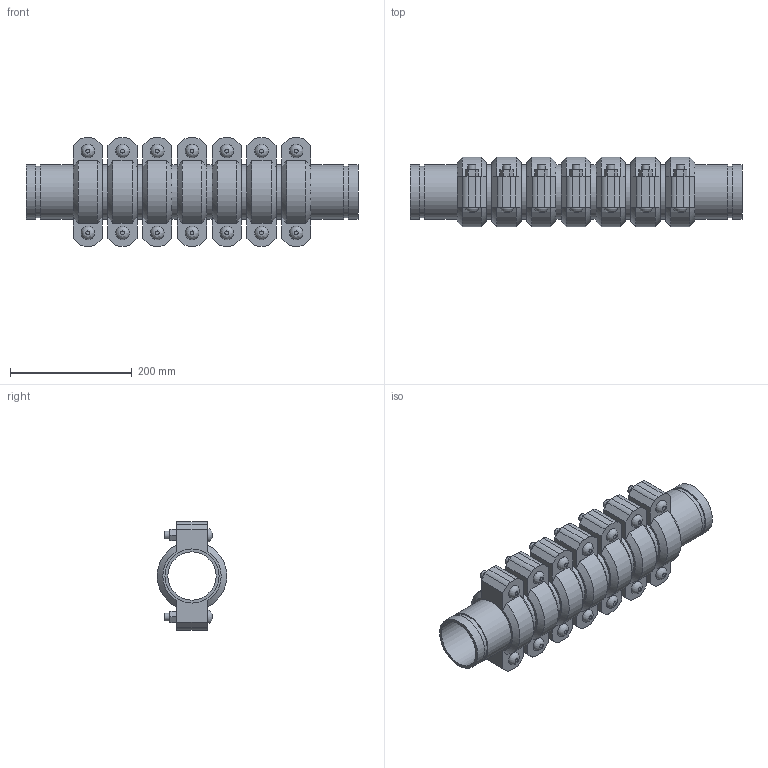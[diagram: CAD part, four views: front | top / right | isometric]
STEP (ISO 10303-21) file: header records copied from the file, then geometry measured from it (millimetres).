
FILE_DESCRIPTION(/* description */ ('VIC EXPANSION JOINT 7 COUPLINGS COMPRESSED STYLE 155 (OGS)','CAx-IF Rec.Pracs.---Representation and Presentation of Product Manufacturing Information (PMI)---4.0---2014-10-13'),/* implementation_level */ '2;1');
FILE_NAME(/* name */ 'C:\Users\kkamble\AppData\Roaming\Autodesk\ApplicationPlugins\Victaulic.Temp\A262\Victaulic_IPS_Expansion Joint_Compressed_7 Couplings_Style 155 (OGS)_3 (80).stp',/* time_stamp */ '2021-06-27T00:33:56+02:00',/* author */ ('kkamble'),/* organization */ ('Victaulic'),/* preprocessor_version */ 'ST-DEVELOPER v17.2',/* originating_system */ 'Autodesk Inventor 2019',/* authorisation */ '');
FILE_SCHEMA (('AP242_MANAGED_MODEL_BASED_3D_ENGINEERING_MIM_LF { 1 0 10303 442 1 1 4 }'));
Length unit declared in the file: inch
Products named in the file (4): 155-03.0; Nipple-03.0; Nipple-03.0_1; 075-03.0
Assembly tree (15 placements, depth 2):
  155-03.0
    Nipple-03.0  x2
    Nipple-03.0_1  x6
    075-03.0  x7
Bounding box: 546.1 x 113.88 x 177.8 mm (x, y, z)
Volume: 2945939.2 mm3; surface area: 739965.1 mm2
Topology: 15 solids, 29 shells, 467 faces, 1129 edges, 794 vertices
Faces by surface type: plane 286, cylinder 139, cone 28, bspline 14
Full cylindrical faces by diameter (mm): 12.7 x28, 14.605 x14, 79.35 x8, 84.938 x16, 88.9 x31
Entity records: 2739 total; most frequent: CARTESIAN_POINT 485, DIRECTION 455, ORIENTED_EDGE 374, EDGE_CURVE 187, AXIS2_PLACEMENT_3D 182, VERTEX_POINT 134, EDGE_LOOP 101, LINE 91
